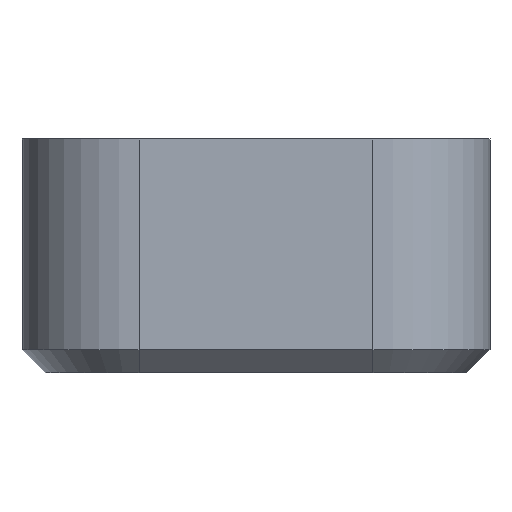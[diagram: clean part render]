
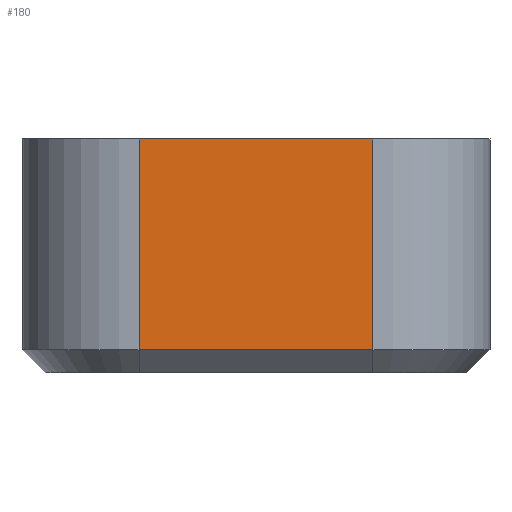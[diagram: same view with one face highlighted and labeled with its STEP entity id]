
A CAD part, left-side view. The second image highlights one B-rep face of the part: STEP entity #180.
In plain terms, the highlighted planar face has unit normal (-1, 0, 0).
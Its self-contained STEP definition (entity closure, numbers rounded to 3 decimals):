
#180=ADVANCED_FACE('NONE',(#363),#364,.F.);
#363=FACE_OUTER_BOUND('',#539,.T.);
#364=PLANE('',#540);
#539=EDGE_LOOP('',(#1003,#1004,#1005,#1006));
#540=AXIS2_PLACEMENT_3D('',#1007,#1008,#1009);
#1003=ORIENTED_EDGE('',*,*,#1037,.T.);
#1004=ORIENTED_EDGE('',*,*,#1207,.T.);
#1005=ORIENTED_EDGE('',*,*,#1068,.T.);
#1006=ORIENTED_EDGE('',*,*,#1190,.F.);
#1007=CARTESIAN_POINT('',(-25.0,-8.0,8.0));
#1008=DIRECTION('',(1.0,0.,0.));
#1009=DIRECTION('',(0.,1.0,0.));
#1037=EDGE_CURVE('NONE',#1231,#1229,#1232,.T.);
#1068=EDGE_CURVE('NONE',#1281,#1282,#1283,.T.);
#1190=EDGE_CURVE('NONE',#1231,#1282,#1457,.T.);
#1207=EDGE_CURVE('NONE',#1229,#1281,#1475,.T.);
#1229=VERTEX_POINT('NONE',#1505);
#1231=VERTEX_POINT('NONE',#1507);
#1232=LINE('',#1508,#1509);
#1281=VERTEX_POINT('NONE',#1575);
#1282=VERTEX_POINT('NONE',#1576);
#1283=LINE('',#1577,#1578);
#1457=LINE('',#1810,#1811);
#1475=LINE('',#1836,#1837);
#1505=CARTESIAN_POINT('',(-25.0,4.,0.8));
#1507=CARTESIAN_POINT('',(-25.0,4.,8.0));
#1508=CARTESIAN_POINT('',(-25.0,4.,8.0));
#1509=VECTOR('',#1851,1.0);
#1575=CARTESIAN_POINT('',(-25.0,-4.0,0.8));
#1576=CARTESIAN_POINT('',(-25.0,-4.0,8.0));
#1577=CARTESIAN_POINT('',(-25.0,-4.0,8.0));
#1578=VECTOR('',#1884,1.0);
#1810=CARTESIAN_POINT('',(-25.0,-8.0,8.0));
#1811=VECTOR('',#2030,1.0);
#1836=CARTESIAN_POINT('',(-25.0,-4.0,0.8));
#1837=VECTOR('',#2041,1.0);
#1851=DIRECTION('',(0.0,0.0,-1.0));
#1884=DIRECTION('',(-0.0,-0.0,1.0));
#2030=DIRECTION('',(0.,-1.0,-0.0));
#2041=DIRECTION('',(0.,-1.0,0.0));
